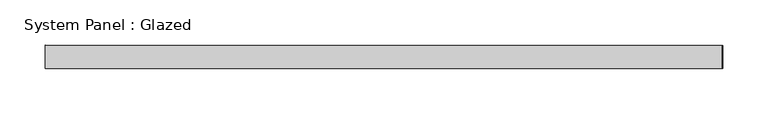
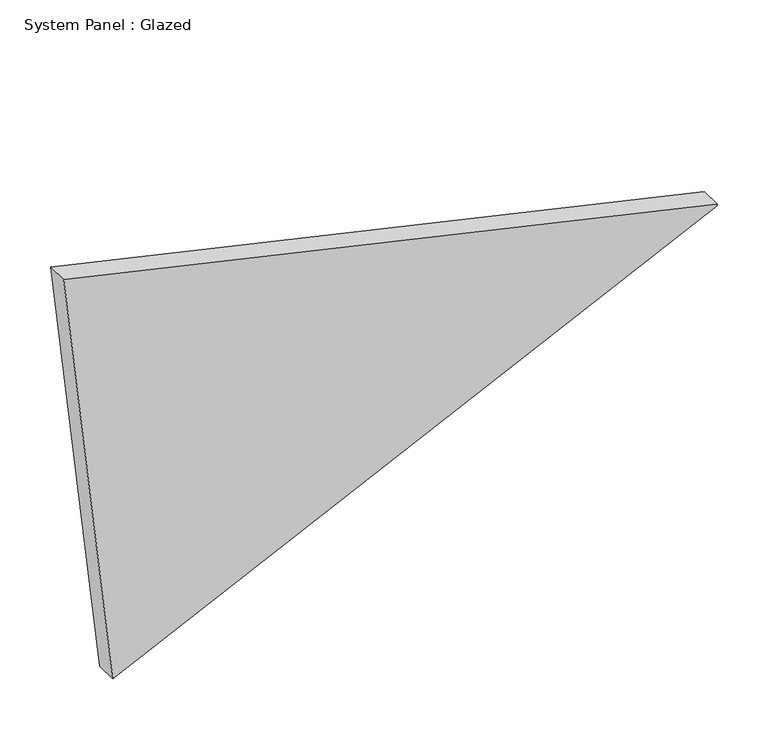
"""IFC4 building model written with IfcOpenShell, lengths in millimetres: plate geometry, System Panel : Glazed."""

from ifc_helpers import new_model, si_unit, frame, origin, place, context, project, spatial, polyline, outline, extrude, source, transform, mapped, element, save


def system_panel_glazed_a373f290(model_context):
    return source(origin(), model_context, "Body", "SweptSolid", [
        extrude(outline(polyline([(0.0, -316.196535), (329.1408087, 371.9865474), (330.8067946, 371.8007485), (500.2473011, -371.9865474), (0.0, -316.196535)])), frame((0.0, -44.45, 0.0), z_axis=(0.0, 1.0, 0.0), x_axis=(0.0, 0.0, 1.0)), (0.0, 0.0, 1.0), 25.4),
    ])


if __name__ == "__main__":
    model = new_model("IFC4")
    model_context = context("Model", 3, world=origin())
    ifc_project = project(units=[si_unit("LENGTHUNIT", "METRE", prefix="MILLI")], contexts=[model_context])
    site = spatial("IfcSite", under=ifc_project)
    building = spatial("IfcBuilding", under=site)
    placement = place(None, origin())
    system_panel_glazed_shape = system_panel_glazed_a373f290(model_context)
    element("IfcPlate", 1, ObjectType="System Panel : Glazed", at=placement, inside=building, context=model_context, shape_type="MappedRepresentation", body=[
        mapped(system_panel_glazed_shape, transform((0.0, 0.0, 0.0), x_axis=(1.0, 0.0, 0.0), y_axis=(0.0, 1.0, 0.0), z_axis=(0.0, 0.0, 1.0))),
    ])
    save(model, "model.ifc")
